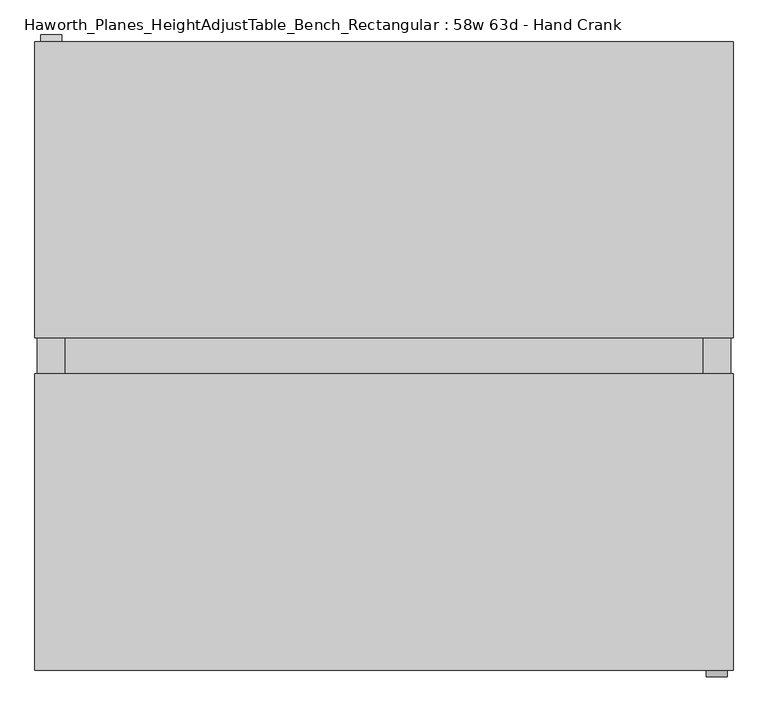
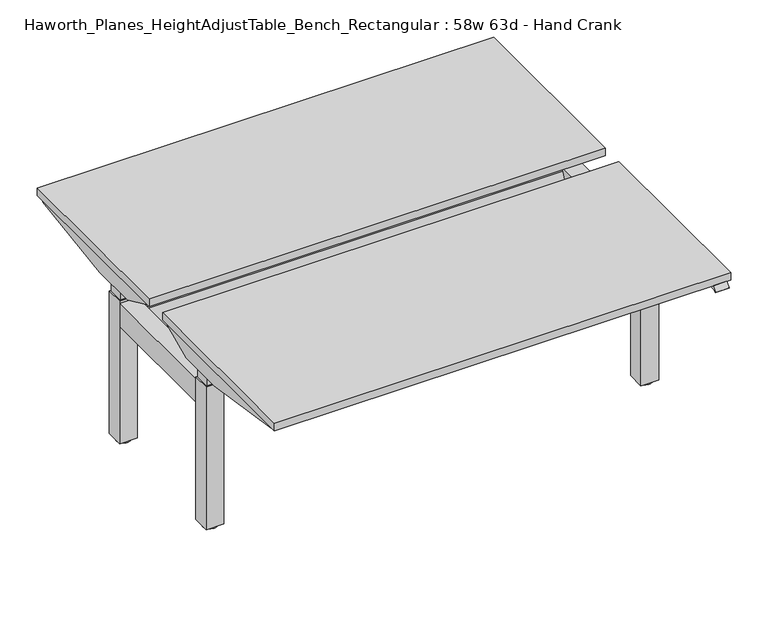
"""IFC4 building model written with IfcOpenShell, lengths in millimetres: furniture geometry, Haworth_Planes_HeightAdjustTable_Bench_Rectangular : 58w 63d - Hand Crank."""

from ifc_helpers import new_model, si_unit, point, frame, frame_2d, origin, origin_with_axes, place, context, project, spatial, polyline, circle_curve, trimmed, segment, composite_curve, outline, extrude, source, transform, mapped, element, save


def haworth_planes_heightadjusttable_bench_rectangular_58w_63d_0bb0f0b5(model_context):
    return source(origin(), model_context, "Body", "SweptSolid", [
        extrude(outline(composite_curve([segment(trimmed(circle_curve(frame_2d((-1000.125, 292.1)), 28.6553383), [point((-1028.7803383, 292.1))], [point((-971.4696617, 292.1))], False, "CARTESIAN"), True, "CONTINUOUS"), segment(trimmed(circle_curve(frame_2d((-1000.125, 292.1)), 28.6553383), [point((-971.4696617, 292.1))], [point((-1028.7803383, 292.1))], False, "CARTESIAN"), True, "CONTINUOUS")], self_intersect=False)), origin_with_axes(), (0.0, 0.0, 1.0), 9.525),
        extrude(outline(polyline([(-969.9625, 261.9375), (-1030.2875, 261.9375), (-1030.2875, 322.2625), (-969.9625, 322.2625), (-969.9625, 261.9375)])), frame((0.0, 0.0, 598.4875), z_axis=(0.0, 0.0, 1.0), x_axis=(1.0, 0.0, 0.0)), (0.0, 0.0, 1.0), 107.95),
        extrude(outline(polyline([(69.85, 706.4375), (768.35, 706.4375), (768.35, 698.5), (386.7967585, 639.7625), (197.4032415, 639.7625), (69.85, 698.5), (69.85, 706.4375)])), frame((-1038.225, 0.0, 0.0), z_axis=(1.0, 0.0, 0.0), x_axis=(0.0, 1.0, 0.0)), (0.0, 0.0, 1.0), 3.175),
        extrude(outline(polyline([(-965.2, 257.175), (-1035.05, 257.175), (-1035.05, 327.025), (-965.2, 327.025), (-965.2, 257.175)])), frame((0.0, 0.0, 9.525), z_axis=(0.0, 0.0, 1.0), x_axis=(1.0, 0.0, 0.0)), (0.0, 0.0, 1.0), 588.9625),
        extrude(outline(composite_curve([segment(trimmed(circle_curve(frame_2d((-1000.125, -292.1)), 28.6553383), [point((-1028.7803383, -292.1))], [point((-971.4696617, -292.1))], False, "CARTESIAN"), True, "CONTINUOUS"), segment(trimmed(circle_curve(frame_2d((-1000.125, -292.1)), 28.6553383), [point((-971.4696617, -292.1))], [point((-1028.7803383, -292.1))], False, "CARTESIAN"), True, "CONTINUOUS")], self_intersect=False)), origin_with_axes(), (0.0, 0.0, 1.0), 9.525),
        extrude(outline(polyline([(-969.9625, -261.9375), (-969.9625, -322.2625), (-1030.2875, -322.2625), (-1030.2875, -261.9375), (-969.9625, -261.9375)])), frame((0.0, 0.0, 598.4875), z_axis=(0.0, 0.0, 1.0), x_axis=(1.0, 0.0, 0.0)), (0.0, 0.0, 1.0), 107.95),
        extrude(outline(polyline([(-69.85, 706.4375), (-69.85, 698.5), (-197.4032415, 639.7625), (-386.7967585, 639.7625), (-768.35, 698.5), (-768.35, 706.4375), (-69.85, 706.4375)])), frame((-1038.225, 0.0, 0.0), z_axis=(1.0, 0.0, 0.0), x_axis=(0.0, 1.0, 0.0)), (0.0, 0.0, 1.0), 3.175),
        extrude(outline(polyline([(-965.2, -257.175), (-965.2, -327.025), (-1035.05, -327.025), (-1035.05, -257.175), (-965.2, -257.175)])), frame((0.0, 0.0, 9.525), z_axis=(0.0, 0.0, 1.0), x_axis=(1.0, 0.0, 0.0)), (0.0, 0.0, 1.0), 588.9625),
        extrude(outline(composite_curve([segment(trimmed(circle_curve(frame_2d((695.325, -292.1)), 28.6553383), [point((723.9803383, -292.1))], [point((666.6696617, -292.1))], False, "CARTESIAN"), True, "CONTINUOUS"), segment(trimmed(circle_curve(frame_2d((695.325, -292.1)), 28.6553383), [point((666.6696617, -292.1))], [point((723.9803383, -292.1))], False, "CARTESIAN"), True, "CONTINUOUS")], self_intersect=False)), origin_with_axes(), (0.0, 0.0, 1.0), 9.525),
        extrude(outline(polyline([(665.1625, -261.9375), (725.4875, -261.9375), (725.4875, -322.2625), (665.1625, -322.2625), (665.1625, -261.9375)])), frame((0.0, 0.0, 598.4875), z_axis=(0.0, 0.0, 1.0), x_axis=(1.0, 0.0, 0.0)), (0.0, 0.0, 1.0), 107.95),
        extrude(outline(polyline([(-69.85, 706.4375), (-69.85, 698.5), (-197.4032415, 639.7625), (-386.7967585, 639.7625), (-768.35, 698.5), (-768.35, 706.4375), (-69.85, 706.4375)])), frame((730.25, 0.0, 0.0), z_axis=(1.0, 0.0, 0.0), x_axis=(0.0, 1.0, 0.0)), (0.0, 0.0, 1.0), 3.175),
        extrude(outline(polyline([(660.4, -257.175), (730.25, -257.175), (730.25, -327.025), (660.4, -327.025), (660.4, -257.175)])), frame((0.0, 0.0, 9.525), z_axis=(0.0, 0.0, 1.0), x_axis=(1.0, 0.0, 0.0)), (0.0, 0.0, 1.0), 588.9625),
        extrude(outline(composite_curve([segment(trimmed(circle_curve(frame_2d((695.325, 292.1)), 28.6553383), [point((723.9803383, 292.1))], [point((666.6696617, 292.1))], False, "CARTESIAN"), True, "CONTINUOUS"), segment(trimmed(circle_curve(frame_2d((695.325, 292.1)), 28.6553383), [point((666.6696617, 292.1))], [point((723.9803383, 292.1))], False, "CARTESIAN"), True, "CONTINUOUS")], self_intersect=False)), origin_with_axes(), (0.0, 0.0, 1.0), 9.525),
        extrude(outline(polyline([(665.1625, 261.9375), (665.1625, 322.2625), (725.4875, 322.2625), (725.4875, 261.9375), (665.1625, 261.9375)])), frame((0.0, 0.0, 598.4875), z_axis=(0.0, 0.0, 1.0), x_axis=(1.0, 0.0, 0.0)), (0.0, 0.0, 1.0), 107.95),
        extrude(outline(polyline([(69.85, 706.4375), (768.35, 706.4375), (768.35, 698.5), (386.7967585, 639.7625), (197.4032415, 639.7625), (69.85, 698.5), (69.85, 706.4375)])), frame((730.25, 0.0, 0.0), z_axis=(1.0, 0.0, 0.0), x_axis=(0.0, 1.0, 0.0)), (0.0, 0.0, 1.0), 3.175),
        extrude(outline(polyline([(660.4, 257.175), (660.4, 327.025), (730.25, 327.025), (730.25, 257.175), (660.4, 257.175)])), frame((0.0, 0.0, 9.525), z_axis=(0.0, 0.0, 1.0), x_axis=(1.0, 0.0, 0.0)), (0.0, 0.0, 1.0), 588.9625),
        extrude(outline(polyline([(-49.8855997, 443.9918466), (49.8855997, 443.9918466), (49.8855997, 478.2806094), (56.2355997, 478.2806094), (56.2355997, 437.6418466), (-56.2355997, 437.6418466), (-56.2355997, 478.2806094), (-49.8855997, 478.2806094), (-49.8855997, 443.9918466)])), frame((-965.2, 0.0, 0.0), z_axis=(1.0, 0.0, 0.0), x_axis=(0.0, 1.0, 0.0)), (0.0, 0.0, 1.0), 1625.6),
        extrude(outline(polyline([(817.4600218, 689.0774782), (815.249554, 686.8670104), (807.6541396, 694.4624248), (772.3143642, 694.4624248), (772.3143642, 706.4375), (800.1, 706.4375), (817.4600218, 689.0774782)])), frame((-1027.1125, 0.0, 0.0), z_axis=(1.0, 0.0, 0.0), x_axis=(0.0, 1.0, 0.0)), (0.0, 0.0, 1.0), 53.975),
        extrude(outline(polyline([(-817.4600218, 689.0774782), (-800.1, 706.4375), (-772.3143642, 706.4375), (-772.3143642, 694.4624248), (-807.6541396, 694.4624248), (-815.249554, 686.8670104), (-817.4600218, 689.0774782)])), frame((668.3375, 0.0, 0.0), z_axis=(1.0, 0.0, 0.0), x_axis=(0.0, 1.0, 0.0)), (0.0, 0.0, 1.0), 53.975),
        extrude(outline(polyline([(-201.2073475, 582.9999885), (-201.2073475, 575.386209), (-162.683881, 484.6306094), (-46.0375, 484.6306094), (-46.0375, 554.4312017), (-52.3875, 554.4312017), (-52.3875, 582.9999885), (52.3875, 582.9999885), (52.3875, 554.4312017), (46.0375, 554.4312017), (46.0375, 484.6306094), (162.683881, 484.6306094), (201.2073475, 575.386209), (201.2073475, 582.9999885), (256.5796875, 582.9999885), (256.5796875, 576.6499885), (207.5573475, 576.6499885), (207.5573475, 574.0942869), (166.8868543, 478.2806094), (39.6875, 478.2806094), (39.6875, 560.7812017), (46.0375, 560.7812017), (46.0375, 576.6499885), (-46.0375, 576.6499885), (-46.0375, 560.7812017), (-39.6875, 560.7812017), (-39.6875, 478.2806094), (-166.8868543, 478.2806094), (-207.5573475, 574.0942869), (-207.5573475, 576.6499885), (-256.5796875, 576.6499885), (-256.5796875, 582.9999885), (-201.2073475, 582.9999885)])), frame((-965.2, 0.0, 0.0), z_axis=(1.0, 0.0, 0.0), x_axis=(0.0, 1.0, 0.0)), (0.0, 0.0, 1.0), 1625.6),
        extrude(outline(polyline([(730.25, -256.5796875), (660.4, -256.5796875), (660.4, 256.5796875), (730.25, 256.5796875), (730.25, -256.5796875)])), frame((0.0, 0.0, 493.4839892), z_axis=(0.0, 0.0, 1.0), x_axis=(1.0, 0.0, 0.0)), (0.0, 0.0, 1.0), 95.25),
        extrude(outline(polyline([(-965.2, -256.5796875), (-1035.05, -256.5796875), (-1035.05, 256.5796875), (-965.2, 256.5796875), (-965.2, -256.5796875)])), frame((0.0, 0.0, 493.4839892), z_axis=(0.0, 0.0, 1.0), x_axis=(1.0, 0.0, 0.0)), (0.0, 0.0, 1.0), 95.25),
        extrude(outline(polyline([(736.6, 46.0375), (-1041.4, 46.0375), (-1041.4, 800.1), (736.6, 800.1), (736.6, 46.0375)])), frame((0.0, 0.0, 706.4375), z_axis=(0.0, 0.0, 1.0), x_axis=(1.0, 0.0, 0.0)), (0.0, 0.0, 1.0), 30.1625),
        extrude(outline(polyline([(736.6, -46.0375), (736.6, -800.1), (-1041.4, -800.1), (-1041.4, -46.0375), (736.6, -46.0375)])), frame((0.0, 0.0, 706.4375), z_axis=(0.0, 0.0, 1.0), x_axis=(1.0, 0.0, 0.0)), (0.0, 0.0, 1.0), 30.1625),
    ])


if __name__ == "__main__":
    model = new_model("IFC4")
    model_context = context("Model", 3, world=origin())
    ifc_project = project(units=[si_unit("LENGTHUNIT", "METRE", prefix="MILLI")], contexts=[model_context])
    site = spatial("IfcSite", under=ifc_project)
    building = spatial("IfcBuilding", under=site)
    placement = place(None, origin())
    haworth_planes_heightadjusttable_bench_rectangular_58w_63d_shape = haworth_planes_heightadjusttable_bench_rectangular_58w_63d_0bb0f0b5(model_context)
    element("IfcFurniture", 1, ObjectType="Haworth_Planes_HeightAdjustTable_Bench_Rectangular : 58w 63d - Hand Crank", at=placement, inside=building, context=model_context, shape_type="MappedRepresentation", body=[
        mapped(haworth_planes_heightadjusttable_bench_rectangular_58w_63d_shape, transform((0.0, 0.0, 0.0), x_axis=(1.0, 0.0, 0.0), y_axis=(0.0, 1.0, 0.0), z_axis=(0.0, 0.0, 1.0))),
    ])
    save(model, "model.ifc")
